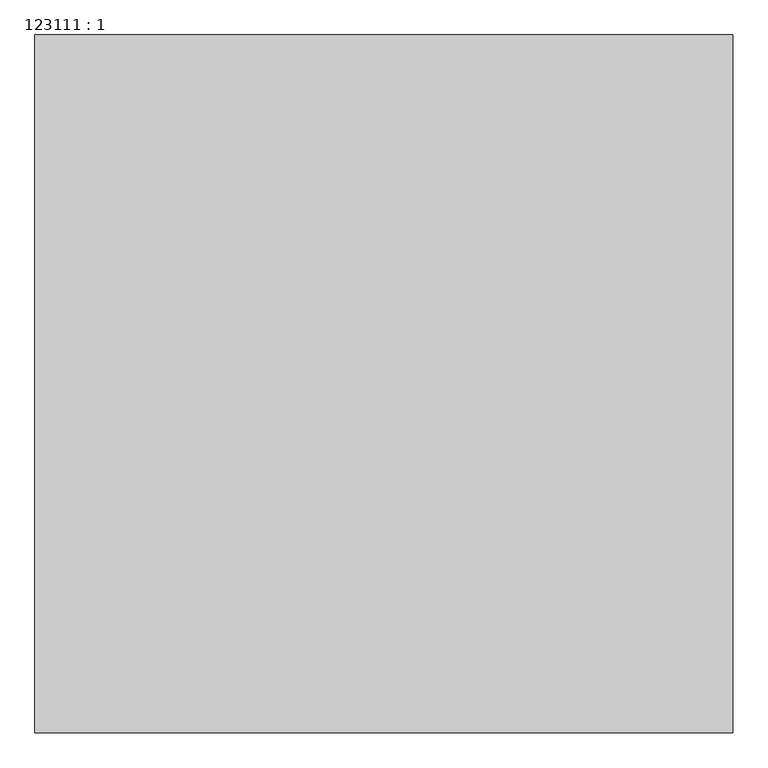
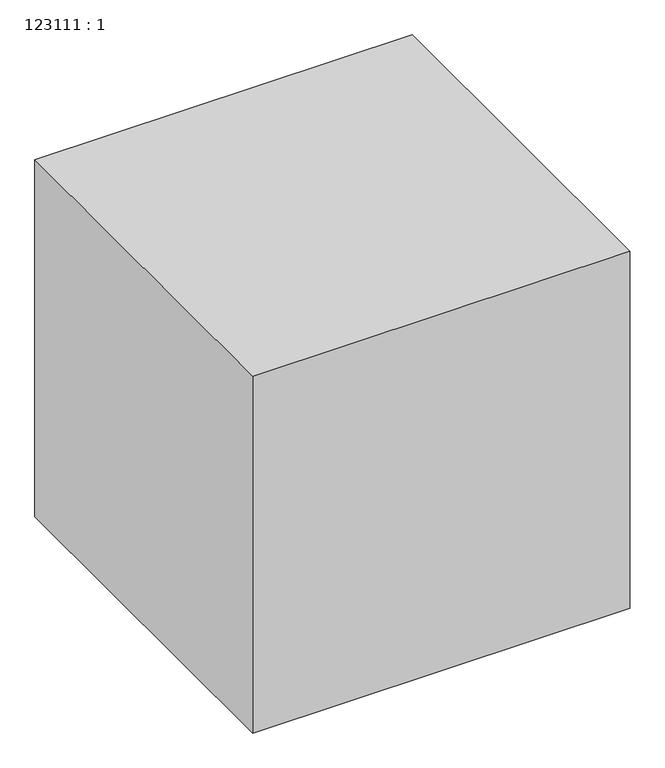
"""IFC4 building model written with IfcOpenShell, lengths in millimetres: proxy geometry, 123111 : 1."""

from ifc_helpers import new_model, si_unit, origin, origin_with_axes, place, context, project, spatial, polyline, outline, extrude, source, transform, mapped, element, save


def proxy_123111_1_0379a0e4(model_context):
    return source(origin(), model_context, "Body", "SweptSolid", [
        extrude(outline(polyline([(-26307.9756708, -4664.7705528), (-26307.9756708, -5664.7705528), (-27307.9756708, -5664.7705528), (-27307.9756708, -4664.7705528), (-26307.9756708, -4664.7705528)])), origin_with_axes(), (0.0, 0.0, 1.0), 1000.0),
    ])


if __name__ == "__main__":
    model = new_model("IFC4")
    model_context = context("Model", 3, world=origin())
    ifc_project = project(units=[si_unit("LENGTHUNIT", "METRE", prefix="MILLI")], contexts=[model_context])
    site = spatial("IfcSite", under=ifc_project)
    building = spatial("IfcBuilding", under=site)
    placement = place(None, origin())
    proxy_123111_1_shape = proxy_123111_1_0379a0e4(model_context)
    element("IfcBuildingElementProxy", 1, Name="123111 : 1", ObjectType="123111 : 1", at=placement, inside=building, context=model_context, shape_type="MappedRepresentation", body=[
        mapped(proxy_123111_1_shape, transform((0.0, 0.0, 0.0), x_axis=(1.0, 0.0, 0.0), y_axis=(0.0, 1.0, 0.0), z_axis=(0.0, 0.0, 1.0))),
    ])
    save(model, "model.ifc")
